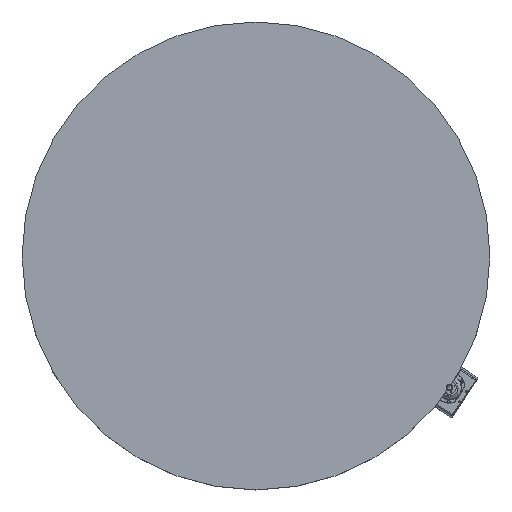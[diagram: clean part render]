
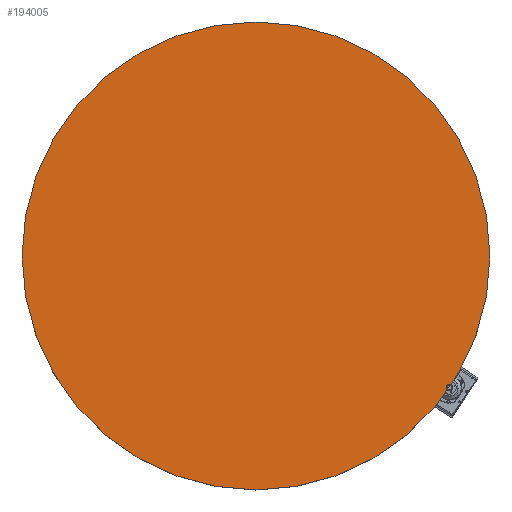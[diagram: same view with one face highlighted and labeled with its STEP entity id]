
A CAD part, top view. The second image highlights one B-rep face of the part: STEP entity #194005.
In plain terms, the highlighted planar face has unit normal (0, 0, 1).
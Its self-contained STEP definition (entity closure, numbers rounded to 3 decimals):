
#12716 = CARTESIAN_POINT ( 'NONE',  ( 550., 0., 150. ) ) ;
#14504 = DIRECTION ( 'NONE',  ( 0., 0., 1. ) ) ;
#17048 = EDGE_CURVE ( 'NONE', #97673, #104212, #93715, .T. ) ;
#27695 = AXIS2_PLACEMENT_3D ( 'NONE', #214420, #14504, #177524 ) ;
#52934 = DIRECTION ( 'NONE',  ( 0., 0., 1. ) ) ;
#63922 = DIRECTION ( 'NONE',  ( 0., 0., 1. ) ) ;
#77723 = AXIS2_PLACEMENT_3D ( 'NONE', #91179, #52934, #107645 ) ;
#78615 = CARTESIAN_POINT ( 'NONE',  ( -550., 0., 150. ) ) ;
#84772 = ORIENTED_EDGE ( 'NONE', *, *, #213620, .T. ) ;
#91179 = CARTESIAN_POINT ( 'NONE',  ( 0., 0., 150. ) ) ;
#93715 = CIRCLE ( 'NONE', #27695, 550. ) ;
#97673 = VERTEX_POINT ( 'NONE', #12716 ) ;
#98366 = PLANE ( 'NONE',  #167119 ) ;
#104212 = VERTEX_POINT ( 'NONE', #78615 ) ;
#107645 = DIRECTION ( 'NONE',  ( 1., 0., 0. ) ) ;
#136586 = ORIENTED_EDGE ( 'NONE', *, *, #17048, .T. ) ;
#144371 = EDGE_LOOP ( 'NONE', ( #84772, #136586 ) ) ;
#167119 = AXIS2_PLACEMENT_3D ( 'NONE', #170610, #63922, #207449 ) ;
#170610 = CARTESIAN_POINT ( 'NONE',  ( 0., 0., 150. ) ) ;
#177524 = DIRECTION ( 'NONE',  ( 1., 0., 0. ) ) ;
#194005 = ADVANCED_FACE ( 'NONE', ( #222675 ), #98366, .T. ) ;
#199340 = CIRCLE ( 'NONE', #77723, 550. ) ;
#207449 = DIRECTION ( 'NONE',  ( 1., 0., 0. ) ) ;
#213620 = EDGE_CURVE ( 'NONE', #104212, #97673, #199340, .T. ) ;
#214420 = CARTESIAN_POINT ( 'NONE',  ( 0., 0., 150. ) ) ;
#222675 = FACE_OUTER_BOUND ( 'NONE', #144371, .T. ) ;
